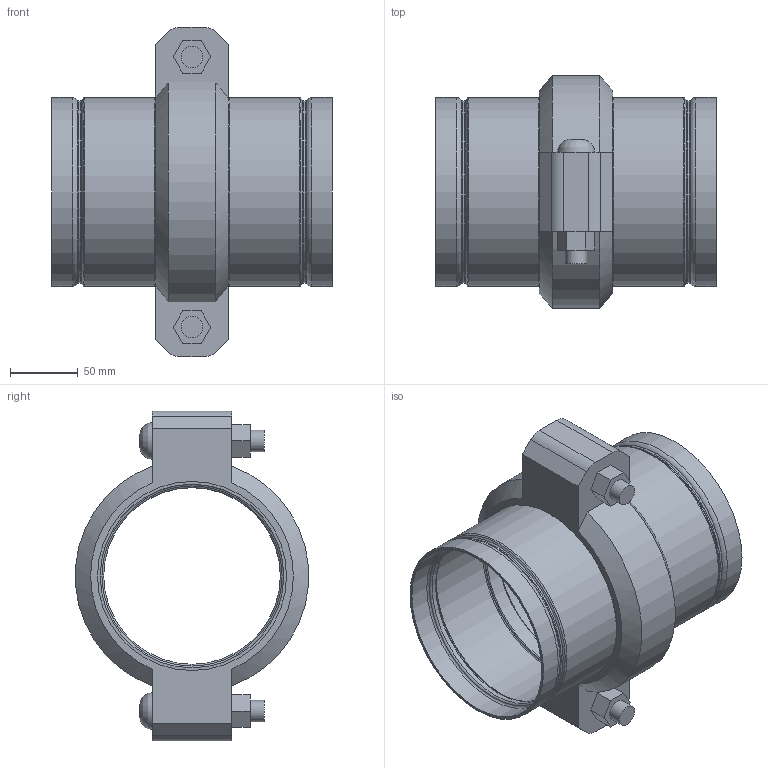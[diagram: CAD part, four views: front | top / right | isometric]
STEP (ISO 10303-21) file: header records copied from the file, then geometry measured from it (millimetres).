
FILE_DESCRIPTION(/* description */ ('VIC STRENGTHIN 100 EXPANSION JOINT 1 COUPLING EXPANDED STYLE E155 (ST1)','CAx-IF Rec.Pracs.---Representation and Presentation of Product Manufacturing Information (PMI)---4.0---2014-10-13'),/* implementation_level */ '2;1');
FILE_NAME(/* name */ 'C:\Users\Vjadhav\AppData\Roaming\Autodesk\ApplicationPlugins\Victaulic.Temp\A475\Victaulic_SS-StrengThin 100_Expansion Joint_Expanded_1 Coupling_Style E155 (ST1)_05.0 (139.7) (125).stp',/* time_stamp */ '2021-07-23T19:22:02+06:00',/* author */ ('kkamble'),/* organization */ ('Victaulic'),/* preprocessor_version */ 'ST-DEVELOPER v17.2',/* originating_system */ 'Autodesk Inventor 2019',/* authorisation */ '');
FILE_SCHEMA (('AP242_MANAGED_MODEL_BASED_3D_ENGINEERING_MIM_LF { 1 0 10303 442 1 1 4 }'));
Length unit declared in the file: inch
Products named in the file (3): E155-05.0 (139.7); E494G-05.0 (139.7); 075-05.0 (139.7)
Assembly tree (3 placements, depth 2):
  E155-05.0 (139.7)
    E494G-05.0 (139.7)  x2
    075-05.0 (139.7)
Bounding box: 207.26 x 172.14 x 243.59 mm (x, y, z)
Volume: 820029.7 mm3; surface area: 285380.8 mm2
Topology: 3 solids, 5 shells, 125 faces, 355 edges, 256 vertices
Faces by surface type: plane 48, cylinder 35, torus 32, cone 8, bspline 2
Full cylindrical faces by diameter (mm): 15.875 x4, 17.424 x2, 130.505 x2, 131.47 x2, 133.35 x1, 134.518 x2, 135.484 x2, 135.687 x6, 139.7 x8
Entity records: 3250 total; most frequent: CARTESIAN_POINT 582, DIRECTION 569, ORIENTED_EDGE 488, EDGE_CURVE 244, AXIS2_PLACEMENT_3D 238, VERTEX_POINT 173, CIRCLE 143, EDGE_LOOP 111
